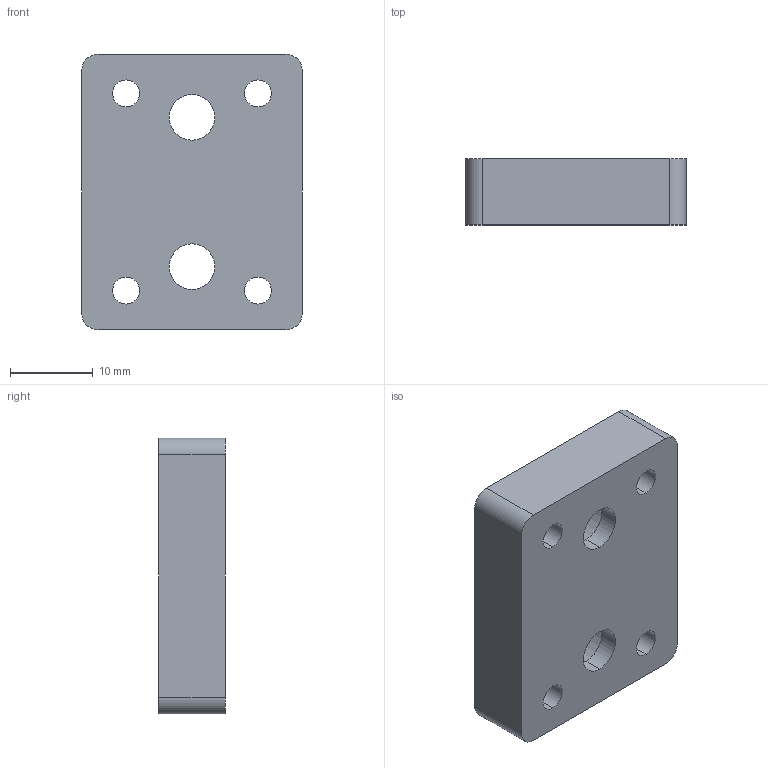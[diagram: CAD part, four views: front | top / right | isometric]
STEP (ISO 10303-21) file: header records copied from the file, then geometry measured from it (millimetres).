
FILE_DESCRIPTION (( 'STEP AP214' ), '1' );
FILE_NAME ('GZ30.23_V1Öâ¼Ðµæ°å.STEP', '2021-06-07T07:25:23', ( 'Î¢ÈíÖÐ¹ú' ), ( 'Microsoft' ), 'SwSTEP 2.0', 'SolidWorks 2017', '' );
FILE_SCHEMA (( 'AUTOMOTIVE_DESIGN' ));
Length unit declared in the file: millimetre
Products named in the file (1): GZ30.23_V1紵標菜啣
Bounding box: 26.6 x 8 x 33.3 mm (x, y, z)
Volume: 5790 mm3; surface area: 3298.1 mm2
Topology: 1 solids, 1 shells, 28 faces, 72 edges, 48 vertices
Faces by surface type: cylinder 20, plane 8
Entity records: 1022 total; most frequent: DIRECTION 170, CARTESIAN_POINT 149, ORIENTED_EDGE 144, EDGE_CURVE 72, AXIS2_PLACEMENT_3D 69, VERTEX_POINT 48, EDGE_LOOP 42, CIRCLE 40
